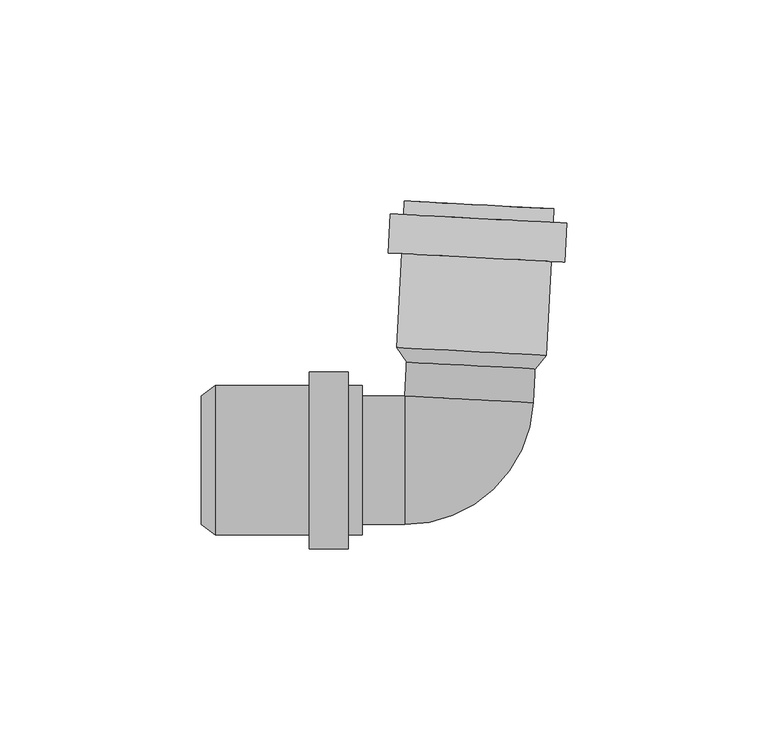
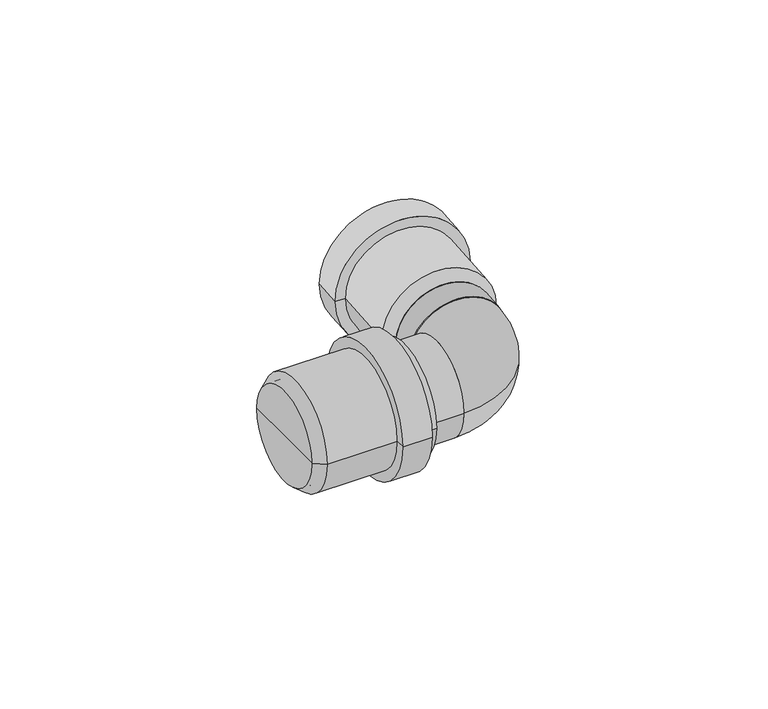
"""IFC4 building model written with IfcOpenShell, lengths in millimetres: pipe fitting geometry, pf_HTB : pf_HTB."""

from ifc_helpers import new_model, si_unit, point, frame, origin, origin_2d, place, context, project, spatial, polyline, circle_curve, ellipse_curve, trimmed, segment, composite_curve, outline, extrude, source, transform, mapped, element, save
from ifc_brep_helpers import plane_surface, cylinder_surface, revolved_surface, advanced_brep


def pipe_fitting_09d01d97(model_context):
    return source(origin(), model_context, "Body", "SolidModel", [
        advanced_brep(
        [(17.2132011, 22.7302817, 0.0), (-14.742944, 24.4050323, 0.0), (-17.1562049, 28.0363092, 0.0), (19.9928138, 26.0894116, 0.0), (1.2351286, 23.567657, 0.0), (21.9030762, 62.5393896, 0.0), (-15.2459425, 64.4862872, 0.0), (-12.6495057, 64.3502137, 0.0), (19.3066394, 62.6754631, 0.0), (21.7251339, 59.1440492, 0.0), (-15.4238848, 61.0909468, 0.0), (25.1204743, 58.966107, 0.0), (-18.8192252, 61.268889, 0.0), (24.6128156, 49.2794005, 0.0), (-19.326884, 51.5821825, 0.0), (21.2174751, 49.4573427, 0.0), (-15.9315436, 51.4042403, 0.0), (17.396377, 26.2254851, 0.0), (-14.5597681, 27.9002357, 0.0), (1.4183044, 27.0628604, 0.0)],
        [
            (0, 1, circle_curve(frame((1.2351286, 23.567657, 0.0), z_axis=(0.052335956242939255, 0.9986295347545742, 0.0), x_axis=(-0.9986295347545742, 0.052335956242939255, 0.0)), 16.0)),
            (1, 2),
            (2, 3, circle_curve(frame((1.4183044, 27.0628604, 0.0), z_axis=(-0.052335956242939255, -0.9986295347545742, 0.0), x_axis=(-0.9986295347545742, 0.052335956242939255, 0.0)), 18.6)),
            (3, 0),
            (1, 0, circle_curve(frame((1.2351286, 23.567657, 0.0), z_axis=(0.052335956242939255, 0.9986295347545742, 0.0), x_axis=(-0.9986295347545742, 0.052335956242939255, 0.0)), 16.0)),
            (3, 2, circle_curve(frame((1.4183044, 27.0628604, 0.0), z_axis=(-0.052335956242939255, -0.9986295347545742, 0.0), x_axis=(-0.9986295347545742, 0.052335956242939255, 0.0)), 18.6)),
            (4, 1),
            (0, 4),
            (5, 6, circle_curve(frame((3.3285668, 63.5128384, 0.0), z_axis=(0.052335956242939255, 0.9986295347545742, 0.0), x_axis=(-0.9986295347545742, 0.052335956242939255, 0.0)), 18.6)),
            (6, 7),
            (7, 8, circle_curve(frame((3.3285668, 63.5128384, 0.0), z_axis=(-0.052335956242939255, -0.9986295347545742, 0.0), x_axis=(-0.9986295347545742, 0.052335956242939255, 0.0)), 16.0)),
            (8, 5),
            (6, 5, circle_curve(frame((3.3285668, 63.5128384, 0.0), z_axis=(0.052335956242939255, 0.9986295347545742, 0.0), x_axis=(-0.9986295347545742, 0.052335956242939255, 0.0)), 18.6)),
            (8, 7, circle_curve(frame((3.3285668, 63.5128384, 0.0), z_axis=(-0.052335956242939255, -0.9986295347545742, 0.0), x_axis=(-0.9986295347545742, 0.052335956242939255, 0.0)), 16.0)),
            (9, 10, circle_curve(frame((3.1506246, 60.117498, 0.0), z_axis=(0.052335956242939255, 0.9986295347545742, 0.0), x_axis=(-0.9986295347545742, 0.052335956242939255, 0.0)), 18.6)),
            (10, 6),
            (5, 9),
            (10, 9, circle_curve(frame((3.1506246, 60.117498, 0.0), z_axis=(0.052335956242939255, 0.9986295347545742, 0.0), x_axis=(-0.9986295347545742, 0.052335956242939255, 0.0)), 18.6)),
            (11, 12, circle_curve(frame((3.1506246, 60.117498, 0.0), z_axis=(0.052335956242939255, 0.9986295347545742, 0.0), x_axis=(-0.9986295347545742, 0.052335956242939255, 0.0)), 22.0)),
            (12, 10),
            (9, 11),
            (12, 11, circle_curve(frame((3.1506246, 60.117498, 0.0), z_axis=(0.052335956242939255, 0.9986295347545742, 0.0), x_axis=(-0.9986295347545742, 0.052335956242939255, 0.0)), 22.0)),
            (13, 14, circle_curve(frame((2.6429658, 50.4307915, 0.0), z_axis=(0.052335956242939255, 0.9986295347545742, 0.0), x_axis=(-0.9986295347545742, 0.052335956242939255, 0.0)), 22.0)),
            (14, 12),
            (11, 13),
            (14, 13, circle_curve(frame((2.6429658, 50.4307915, 0.0), z_axis=(0.052335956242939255, 0.9986295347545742, 0.0), x_axis=(-0.9986295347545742, 0.052335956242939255, 0.0)), 22.0)),
            (15, 16, circle_curve(frame((2.6429658, 50.4307915, 0.0), z_axis=(0.052335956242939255, 0.9986295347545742, 0.0), x_axis=(-0.9986295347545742, 0.052335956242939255, 0.0)), 18.6)),
            (16, 14),
            (13, 15),
            (16, 15, circle_curve(frame((2.6429658, 50.4307915, 0.0), z_axis=(0.052335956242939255, 0.9986295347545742, 0.0), x_axis=(-0.9986295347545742, 0.052335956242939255, 0.0)), 18.6)),
            (2, 16),
            (15, 3),
            (17, 18, circle_curve(frame((1.4183044, 27.0628604, 0.0), z_axis=(0.052335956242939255, 0.9986295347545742, 0.0), x_axis=(-0.9986295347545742, 0.052335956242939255, 0.0)), 16.0)),
            (18, 19),
            (19, 17),
            (18, 17, circle_curve(frame((1.4183044, 27.0628604, 0.0), z_axis=(0.052335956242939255, 0.9986295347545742, 0.0), x_axis=(-0.9986295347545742, 0.052335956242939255, 0.0)), 16.0)),
            (7, 18),
            (17, 8),
        ],
        [
            revolved_surface(polyline([(-17.1562049, 28.0363092, 0.0), (-14.742944, 24.4050323, 0.0)]), (1.2351286, 23.567657, 0.0), (-0.052335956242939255, -0.9986295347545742, 0.0)),
            plane_surface(frame((1.2351286, 23.567657, 0.0), z_axis=(-0.052335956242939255, -0.9986295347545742, 0.0), x_axis=(-0.9986295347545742, 0.052335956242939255, 0.0))),
            plane_surface(frame((3.3285668, 63.5128384, 0.0), z_axis=(0.052335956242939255, 0.9986295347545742, 0.0), x_axis=(-0.9986295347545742, 0.052335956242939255, 0.0))),
            cylinder_surface(frame((1.2351286, 23.567657, 0.0), z_axis=(-0.052335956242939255, -0.9986295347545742, 0.0), x_axis=(-0.9986295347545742, 0.052335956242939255, 0.0)), 18.6),
            plane_surface(frame((3.1506246, 60.117498, 0.0), z_axis=(0.052335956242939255, 0.9986295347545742, 0.0), x_axis=(-0.9986295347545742, 0.052335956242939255, 0.0))),
            cylinder_surface(frame((1.2351286, 23.567657, 0.0), z_axis=(-0.052335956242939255, -0.9986295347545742, 0.0), x_axis=(-0.9986295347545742, 0.052335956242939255, 0.0)), 22.0),
            plane_surface(frame((2.6429658, 50.4307915, 0.0), z_axis=(-0.052335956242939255, -0.9986295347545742, 0.0), x_axis=(-0.9986295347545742, 0.052335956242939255, 0.0))),
            plane_surface(frame((1.4183044, 27.0628604, 0.0), z_axis=(0.052335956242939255, 0.9986295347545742, 0.0), x_axis=(-0.9986295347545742, 0.052335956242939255, 0.0))),
            revolved_surface(polyline([(-14.559768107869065, 27.90023569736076, 0.0), (-12.649505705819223, 64.35021370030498, 0.0)]), (1.2351286, 23.567657, 0.0), (-0.052335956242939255, -0.9986295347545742, 0.0)),
        ],
        [
            (0, [[1, 2, 3, 4]]),
            (0, [[5, -4, 6, -2]]),
            (1, [[7, -1, 8]]),
            (1, [[-8, -5, -7]]),
            (2, [[9, 10, 11, 12]]),
            (2, [[13, -12, 14, -10]]),
            (3, [[15, 16, -9, 17]]),
            (3, [[18, -17, -13, -16]]),
            (4, [[19, 20, -15, 21]]),
            (4, [[22, -21, -18, -20]]),
            (5, [[23, 24, -19, 25]]),
            (5, [[26, -25, -22, -24]]),
            (6, [[27, 28, -23, 29]]),
            (6, [[30, -29, -26, -28]]),
            (3, [[-3, 31, -27, 32]]),
            (3, [[-6, -32, -30, -31]]),
            (7, [[33, 34, 35]]),
            (7, [[36, -35, -34]]),
            (8, [[-11, 37, -33, 38]]),
            (8, [[-14, -38, -36, -37]]),
        ],
    ),
        advanced_brep(
        [(-65.8, -16.0, 0.0), (-65.8, 16.0, 0.0), (-62.3, 18.6, 0.0), (-62.3, -18.6, 0.0), (-65.8, 0.0, 0.0), (-25.8, -18.6, 0.0), (-25.8, 18.6, 0.0), (-25.8, 16.0, 0.0), (-25.8, -16.0, 0.0), (-29.2, -18.6, 0.0), (-29.2, 18.6, 0.0), (-29.2, -22.0, 0.0), (-29.2, 22.0, 0.0), (-38.9, -22.0, 0.0), (-38.9, 22.0, 0.0), (-38.9, -18.6, 0.0), (-38.9, 18.6, 0.0), (-62.3, -16.0, 0.0), (-62.3, 16.0, 0.0), (-62.3, 0.0, 0.0)],
        [
            (0, 1, circle_curve(frame((-65.8, 0.0, 0.0), z_axis=(1.0, 0.0, 0.0), x_axis=(0.0, 1.0, 0.0)), 16.0)),
            (1, 2),
            (2, 3, circle_curve(frame((-62.3, 0.0, 0.0), z_axis=(-1.0, 0.0, 0.0), x_axis=(0.0, 1.0, 0.0)), 18.6)),
            (3, 0),
            (1, 0, circle_curve(frame((-65.8, 0.0, 0.0), z_axis=(1.0, 0.0, 0.0), x_axis=(0.0, 1.0, 0.0)), 16.0)),
            (3, 2, circle_curve(frame((-62.3, 0.0, 0.0), z_axis=(-1.0, 0.0, 0.0), x_axis=(0.0, 1.0, 0.0)), 18.6)),
            (4, 1),
            (0, 4),
            (5, 6, circle_curve(frame((-25.8, 0.0, 0.0), z_axis=(1.0, 0.0, 0.0), x_axis=(0.0, 1.0, 0.0)), 18.6)),
            (6, 7),
            (7, 8, circle_curve(frame((-25.8, 0.0, 0.0), z_axis=(-1.0, 0.0, 0.0), x_axis=(0.0, 1.0, 0.0)), 16.0)),
            (8, 5),
            (6, 5, circle_curve(frame((-25.8, 0.0, 0.0), z_axis=(1.0, 0.0, 0.0), x_axis=(0.0, 1.0, 0.0)), 18.6)),
            (8, 7, circle_curve(frame((-25.8, 0.0, 0.0), z_axis=(-1.0, 0.0, 0.0), x_axis=(0.0, 1.0, 0.0)), 16.0)),
            (9, 10, circle_curve(frame((-29.2, 0.0, 0.0), z_axis=(1.0, 0.0, 0.0), x_axis=(0.0, 1.0, 0.0)), 18.6)),
            (10, 6),
            (5, 9),
            (10, 9, circle_curve(frame((-29.2, 0.0, 0.0), z_axis=(1.0, 0.0, 0.0), x_axis=(0.0, 1.0, 0.0)), 18.6)),
            (11, 12, circle_curve(frame((-29.2, 0.0, 0.0), z_axis=(1.0, 0.0, 0.0), x_axis=(0.0, 1.0, 0.0)), 22.0)),
            (12, 10),
            (9, 11),
            (12, 11, circle_curve(frame((-29.2, 0.0, 0.0), z_axis=(1.0, 0.0, 0.0), x_axis=(0.0, 1.0, 0.0)), 22.0)),
            (13, 14, circle_curve(frame((-38.9, 0.0, 0.0), z_axis=(1.0, 0.0, 0.0), x_axis=(0.0, 1.0, 0.0)), 22.0)),
            (14, 12),
            (11, 13),
            (14, 13, circle_curve(frame((-38.9, 0.0, 0.0), z_axis=(1.0, 0.0, 0.0), x_axis=(0.0, 1.0, 0.0)), 22.0)),
            (15, 16, circle_curve(frame((-38.9, 0.0, 0.0), z_axis=(1.0, 0.0, 0.0), x_axis=(0.0, 1.0, 0.0)), 18.6)),
            (16, 14),
            (13, 15),
            (16, 15, circle_curve(frame((-38.9, 0.0, 0.0), z_axis=(1.0, 0.0, 0.0), x_axis=(0.0, 1.0, 0.0)), 18.6)),
            (2, 16),
            (15, 3),
            (17, 18, circle_curve(frame((-62.3, 0.0, 0.0), z_axis=(1.0, 0.0, 0.0), x_axis=(0.0, 1.0, 0.0)), 16.0)),
            (18, 19),
            (19, 17),
            (18, 17, circle_curve(frame((-62.3, 0.0, 0.0), z_axis=(1.0, 0.0, 0.0), x_axis=(0.0, 1.0, 0.0)), 16.0)),
            (7, 18),
            (17, 8),
        ],
        [
            revolved_surface(polyline([(-62.3, 18.6, 0.0), (-65.8, 16.0, 0.0)]), (-65.8, 0.0, 0.0), (-1.0, 0.0, 0.0)),
            plane_surface(frame((-65.8, 0.0, 0.0), z_axis=(-1.0, 0.0, 0.0), x_axis=(0.0, 1.0, 0.0))),
            plane_surface(frame((-25.8, 0.0, 0.0), z_axis=(1.0, 0.0, 0.0), x_axis=(0.0, 1.0, 0.0))),
            cylinder_surface(frame((-65.8, 0.0, 0.0), z_axis=(-1.0, 0.0, 0.0), x_axis=(0.0, 1.0, 0.0)), 18.6),
            plane_surface(frame((-29.2, 0.0, 0.0), z_axis=(1.0, 0.0, 0.0), x_axis=(0.0, 1.0, 0.0))),
            cylinder_surface(frame((-65.8, 0.0, 0.0), z_axis=(-1.0, 0.0, 0.0), x_axis=(0.0, 1.0, 0.0)), 22.0),
            plane_surface(frame((-38.9, 0.0, 0.0), z_axis=(-1.0, 0.0, 0.0), x_axis=(0.0, 1.0, 0.0))),
            plane_surface(frame((-62.3, 0.0, 0.0), z_axis=(1.0, 0.0, 0.0), x_axis=(0.0, 1.0, 0.0))),
            revolved_surface(polyline([(-62.3, 16.0, 0.0), (-25.799999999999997, 16.0, 0.0)]), (-65.8, 0.0, 0.0), (-1.0, 0.0, 0.0)),
        ],
        [
            (0, [[1, 2, 3, 4]]),
            (0, [[5, -4, 6, -2]]),
            (1, [[7, -1, 8]]),
            (1, [[-8, -5, -7]]),
            (2, [[9, 10, 11, 12]]),
            (2, [[13, -12, 14, -10]]),
            (3, [[15, 16, -9, 17]]),
            (3, [[18, -17, -13, -16]]),
            (4, [[19, 20, -15, 21]]),
            (4, [[22, -21, -18, -20]]),
            (5, [[23, 24, -19, 25]]),
            (5, [[26, -25, -22, -24]]),
            (6, [[27, 28, -23, 29]]),
            (6, [[30, -29, -26, -28]]),
            (3, [[-3, 31, -27, 32]]),
            (3, [[-6, -32, -30, -31]]),
            (7, [[33, 34, 35]]),
            (7, [[36, -35, -34]]),
            (8, [[-11, 37, -33, 38]]),
            (8, [[-14, -38, -36, -37]]),
        ],
    ),
        extrude(outline(composite_curve([segment(trimmed(circle_curve(origin_2d(), 16.0), [point((0.0, -16.0))], [point((0.0, 15.9999999))], False, "CARTESIAN"), True, "CONTINUOUS"), segment(trimmed(circle_curve(origin_2d(), 16.0), [point((0.0, 15.9999999))], [point((0.0, -16.0))], False, "CARTESIAN"), True, "CONTINUOUS")], self_intersect=False)), frame((0.7946395, 15.1626247, 0.0), z_axis=(0.05233595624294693, 0.9986295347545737, 0.0), x_axis=(0.0, 0.0, 1.0)), (0.0, 0.0, 1.0), 11.9165669),
        extrude(outline(composite_curve([segment(trimmed(circle_curve(origin_2d(), 16.0), [point((-16.0, 0.0))], [point((16.0, 0.0))], False, "CARTESIAN"), True, "CONTINUOUS"), segment(trimmed(circle_curve(origin_2d(), 16.0), [point((16.0, 0.0))], [point((-16.0, 0.0))], False, "CARTESIAN"), True, "CONTINUOUS")], self_intersect=False)), frame((-62.3, 0.0, 0.0), z_axis=(1.0, 0.0, 0.0), x_axis=(0.0, 1.0, 0.0)), (0.0, 0.0, 1.0), 47.1165669),
        advanced_brep(
        [(-15.1834331, -16.0, 0.0), (-15.1834331, 16.0, 0.0), (16.772712, 14.3252494, 0.0)],
        [
            (0, 1, circle_curve(frame((-15.1834331, 0.0, 0.0), z_axis=(-1.0, 0.0, 0.0), x_axis=(0.0, 1.0, 0.0)), 16.0)),
            (1, 0, circle_curve(frame((-15.1834331, 0.0, 0.0), z_axis=(-1.0, 0.0, 0.0), x_axis=(0.0, 1.0, 0.0)), 16.0)),
            (2, 1, circle_curve(frame((0.7946395, 15.1626247, 0.0), z_axis=(0.05233595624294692, 0.9986295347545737, 0.0), x_axis=(-0.9986295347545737, 0.05233595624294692, 0.0)), 16.0)),
            (1, 2, circle_curve(frame((0.7946395, 15.1626247, 0.0), z_axis=(0.05233595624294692, 0.9986295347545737, 0.0), x_axis=(-0.9986295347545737, 0.05233595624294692, 0.0)), 16.0)),
            (2, 0, circle_curve(frame((-15.1834331, 16.0, 0.0), z_axis=(0.0, 0.0, -1.0), x_axis=(0.0, -1.0, 0.0)), 32.0)),
        ],
        [
            plane_surface(frame((-15.1834331, 16.0, -14.8), z_axis=(-1.0, 0.0, 0.0), x_axis=(0.0, -1.0, 0.0))),
            plane_surface(frame((-15.1834331, 16.0, -14.8), z_axis=(0.052335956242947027, 0.9986295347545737, 0.0), x_axis=(0.9986295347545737, -0.052335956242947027, 0.0))),
            revolved_surface(trimmed(ellipse_curve(frame((-15.1834331, 0.0, 0.0), z_axis=(1.0, 0.0, 0.0), x_axis=(0.0, 1.0, 0.0)), 16.0, 16.0), [point((-15.1834331, -16.0, 0.0))], [point((-15.1834331, 16.0, 0.0))], True, "CARTESIAN"), (-15.1834331, 16.0, -14.8), (0.0, 0.0, -1.0)),
            revolved_surface(trimmed(ellipse_curve(frame((-15.1834331, 0.0, 0.0), z_axis=(1.0, 0.0, 0.0), x_axis=(0.0, 1.0, 0.0)), 16.0, 16.0), [point((-15.1834331, 16.0, 0.0))], [point((-15.1834331, -16.0, 0.0))], True, "CARTESIAN"), (-15.1834331, 16.0, -14.8), (0.0, 0.0, -1.0)),
        ],
        [
            (0, [[1, 2]]),
            (1, [[3, 4]]),
            (2, [[5, -2, -3]]),
            (3, [[-1, -5, -4]]),
        ],
    ),
    ])


if __name__ == "__main__":
    model = new_model("IFC4")
    model_context = context("Model", 3, world=origin())
    ifc_project = project(units=[si_unit("LENGTHUNIT", "METRE", prefix="MILLI")], contexts=[model_context])
    site = spatial("IfcSite", under=ifc_project)
    building = spatial("IfcBuilding", under=site)
    placement = place(None, origin())
    pipe_fitting_shape = pipe_fitting_09d01d97(model_context)
    element("IfcPipeFitting", 1, ObjectType="pf_HTB : pf_HTB", at=placement, inside=building, context=model_context, shape_type="MappedRepresentation", body=[
        mapped(pipe_fitting_shape, transform((0.0, 0.0, 0.0), x_axis=(1.0, 0.0, 0.0), y_axis=(0.0, 1.0, 0.0), z_axis=(0.0, 0.0, 1.0))),
    ])
    save(model, "model.ifc")
